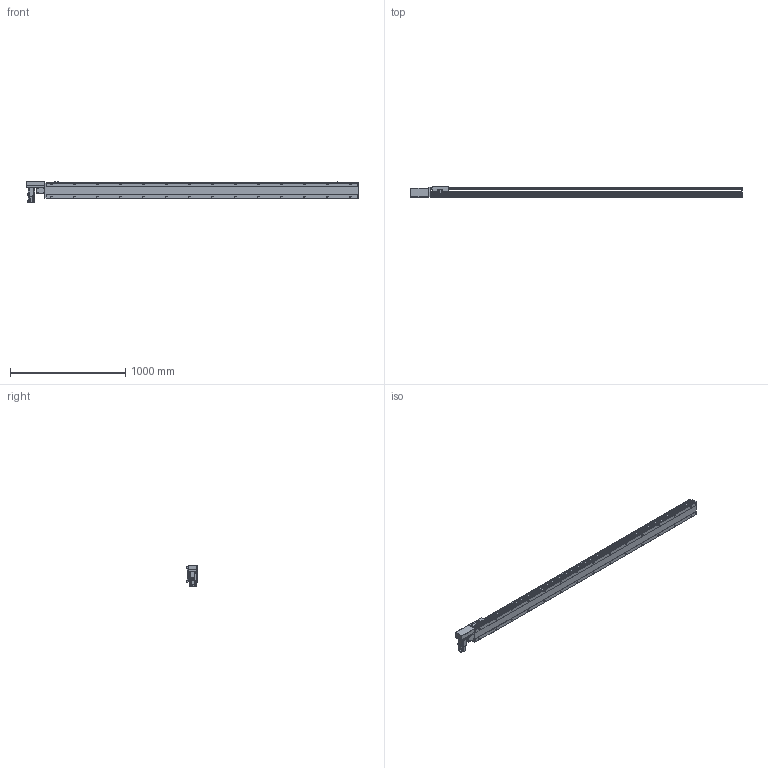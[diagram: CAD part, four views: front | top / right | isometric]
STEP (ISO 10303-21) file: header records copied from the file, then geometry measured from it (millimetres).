
FILE_DESCRIPTION( ( 'STEP AP214' ), '1' );
FILE_NAME( 'x:/temp/worker_6/temp/exporttempdir_5396_74_KQjE6/format_0/PBS140S-P40-S2450-R-T40-C1-N(0).stp', '2022-06-09T00:19:34', ( 'License CC BY-ND 4.0' ), ( 'CADENAS' ), ' ', 'PARTsolutions', ' ' );
FILE_SCHEMA( ( 'AUTOMOTIVE_DESIGN { 1 0 10303 214 1 1 1 1 }' ) );
Length unit declared in the file: millimetre
Products named in the file (7): PBS140S-P40-S2450-R-T40-C1-N(0); _PBS140S-S2450()_body; _PBS140ST-R_motors; _T40-p1; _PBS140S_sliser; _PBS140S_plant; _PBS140S_sensor
Assembly tree (8 placements, depth 2):
  PBS140S-P40-S2450-R-T40-C1-N(0)
    _PBS140S-S2450()_body
    _PBS140ST-R_motors
    _T40-p1
    _PBS140S_sliser
    _PBS140S_plant
    _PBS140S_sensor  x3
Bounding box: 2883 x 93 x 189.7 mm (x, y, z)
Volume: 13643727.6 mm3; surface area: 2299020.8 mm2
Topology: 8 solids, 8 shells, 1195 faces, 3151 edges, 2061 vertices
Faces by surface type: plane 738, cylinder 393, cone 54, sphere 8, torus 2
Full cylindrical faces by diameter (mm): 3.242 x4, 4 x2, 4.134 x4, 4.4 x8, 4.5 x2, 4.8 x4, 4.917 x36, 5.5 x7, 6 x2, 7 x30, 7.5 x8, 8 x12, 8.5 x4, 10.5 x28, 14 x1, 30 x2, 50 x2
Entity records: 44188 total; most frequent: CARTESIAN_POINT 7414, DIRECTION 5768, ORIENTED_EDGE 5422, EDGE_CURVE 2711, AXIS2_PLACEMENT_3D 2039, VERTEX_POINT 1897, LINE 1690, VECTOR 1690
